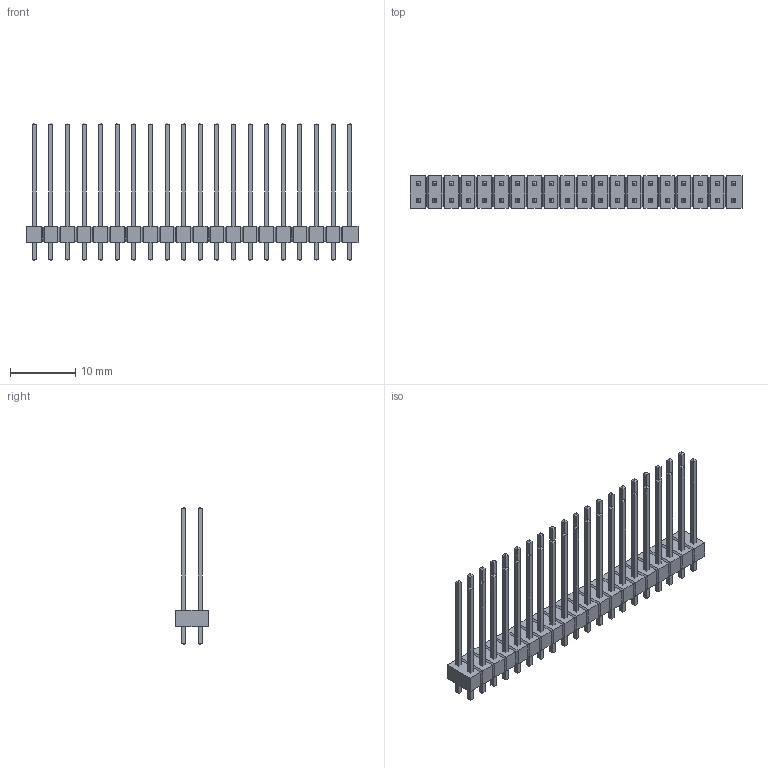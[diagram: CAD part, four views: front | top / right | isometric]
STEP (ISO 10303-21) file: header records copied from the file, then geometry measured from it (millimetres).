
FILE_DESCRIPTION(('FreeCAD Model'),'2;1');
FILE_NAME('/var/www/3D/0T/4640500.1.1.stp','2020-04-11T12:21:36',( 'Author'),(''),'Open CASCADE STEP processor 6.9','FreeCAD','Unknown' );
FILE_SCHEMA(('AUTOMOTIVE_DESIGN { 1 0 10303 214 1 1 1 1 }'));
Length unit declared in the file: millimetre
Products named in the file (3): ASSEMBLY; Body; LeadsArray
Assembly tree (2 placements, depth 2):
  ASSEMBLY
    Body
    LeadsArray
Bounding box: 50.8 x 4.95 x 21.07 mm (x, y, z)
Volume: 965.2 mm3; surface area: 2979.2 mm2
Topology: 41 solids, 41 shells, 794 faces, 1588 edges, 876 vertices
Faces by surface type: plane 794
Entity records: 40067 total; most frequent: CARTESIAN_POINT 6741, DIRECTION 6054, LINE 4460, VECTOR 4460, ORIENTED_EDGE 3176, PCURVE 3176, DEFINITIONAL_REPRESENTATION 3176, EDGE_CURVE 1588
